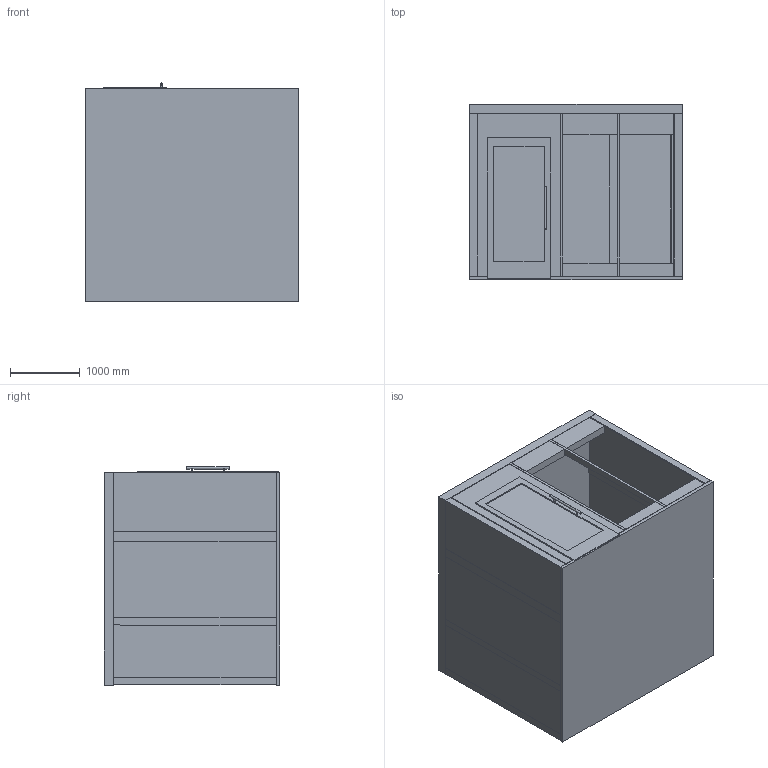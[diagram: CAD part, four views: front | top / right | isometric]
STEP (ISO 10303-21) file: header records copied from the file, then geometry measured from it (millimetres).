
FILE_DESCRIPTION(/* description */ (''),/* implementation_level */ '2;1');
FILE_NAME(/* name */ 'C:\Users\CLy\Desktop\DESKTOP\ZONEZ STEP\FZM.stp',/* time_stamp */ '2021-03-12T17:08:11-08:00',/* author */ ('CLy'),/* organization */ (''),/* preprocessor_version */ 'ST-DEVELOPER v18',/* originating_system */ 'Autodesk Inventor 2020',/* authorisation */ '');
FILE_SCHEMA (('AUTOMOTIVE_DESIGN { 1 0 10303 214 3 1 1 }'));
Length unit declared in the file: inch
Products named in the file (1): FZM (reference 2)
Bounding box: 3048.31 x 2519.11 x 3129.48 mm (x, y, z)
Volume: 4568668437.2 mm3; surface area: 88680054.1 mm2
Topology: 1 solids, 1 shells, 137 faces, 405 edges, 270 vertices
Faces by surface type: plane 128, torus 4, cylinder 3, bspline 2
Full cylindrical faces by diameter (mm): 25.4 x2, 31.75 x1
Entity records: 5333 total; most frequent: CARTESIAN_POINT 1516, ORIENTED_EDGE 810, DIRECTION 689, EDGE_CURVE 405, LINE 381, VECTOR 381, VERTEX_POINT 270, AXIS2_PLACEMENT_3D 154
